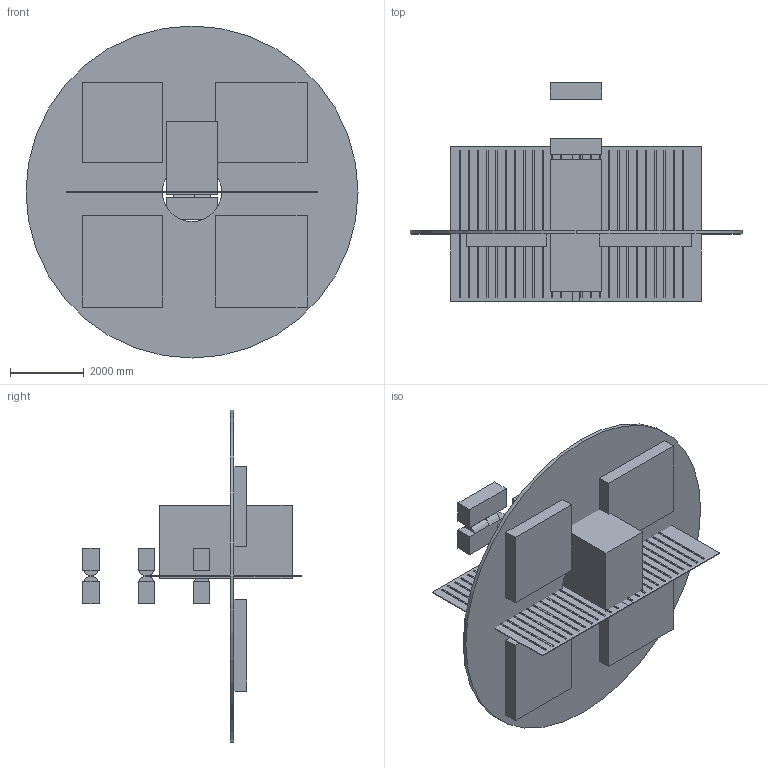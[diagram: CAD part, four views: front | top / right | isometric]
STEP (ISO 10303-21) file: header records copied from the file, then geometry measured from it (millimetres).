
FILE_DESCRIPTION (( 'STEP AP203' ), '1' );
FILE_NAME ('02_Tether_Climber_20T.STEP', '2026-10-28T18:37:51', ( '' ), ( '' ), 'SwSTEP 2.0', 'SolidWorks 2026', '' );
FILE_SCHEMA (( 'CONFIG_CONTROL_DESIGN' ));
Length unit declared in the file: inch
Products named in the file (7): CL_03_Hydraulic_Clamping_Actuator_Yoke; CL_02_Pinch_Drive_Roller; 02_Tether_Climber_20T; CL_01_Hex_Composite_Chassis; CL_05_Laser_PV_Receiver_Dish; TE_01_Graphene_Tether_Segment_10m; CL_04_Thermal_Radiator_Wing
Assembly tree (16 placements, depth 2):
  02_Tether_Climber_20T
    CL_01_Hex_Composite_Chassis
    CL_02_Pinch_Drive_Roller  x6
    CL_03_Hydraulic_Clamping_Actuator_Yoke  x6
    CL_04_Thermal_Radiator_Wing  x2
    CL_05_Laser_PV_Receiver_Dish
  TE_01_Graphene_Tether_Segment_10m
Bounding box: 9000 x 5925 x 9000 mm (x, y, z)
Volume: 27454565437.1 mm3; surface area: 261468263.4 mm2
Topology: 16 solids, 16 shells, 242 faces, 528 edges, 352 vertices
Faces by surface type: plane 214, cylinder 28
Entity records: 4136 total; most frequent: CARTESIAN_POINT 550, DIRECTION 528, ORIENTED_EDGE 504, EDGE_CURVE 252, LINE 236, VECTOR 236, VERTEX_POINT 168, AXIS2_PLACEMENT_3D 146
